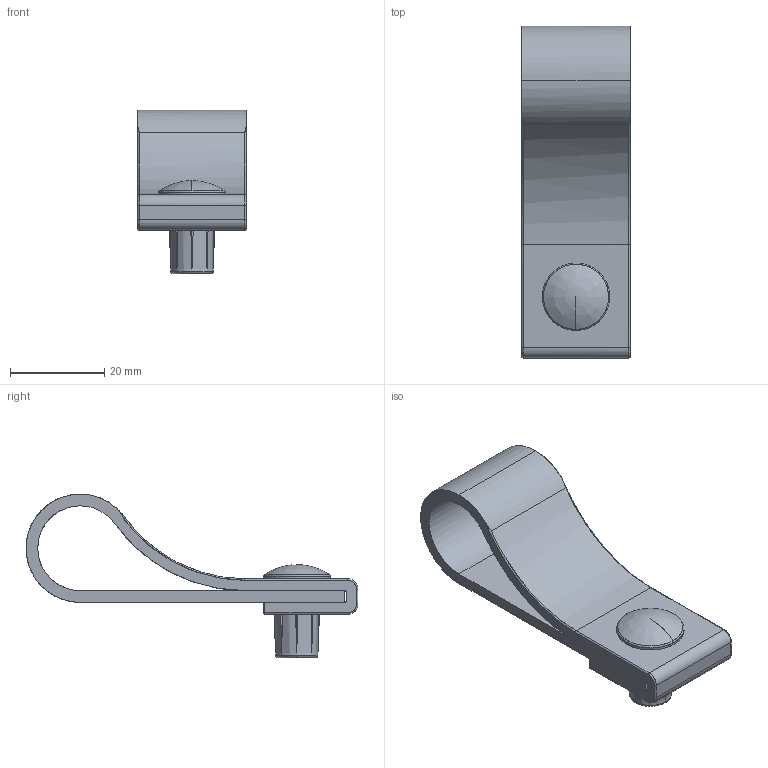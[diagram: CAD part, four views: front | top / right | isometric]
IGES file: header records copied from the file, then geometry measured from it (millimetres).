
Start section: C
Global section: file name: 8309.igs; native system: By Siemens PLM Incorporated; preprocessor: XPlus GENERIC/IGES 16.0.42; author: Author; organization: Title; date: 20210505.110021; units: millimetre
Bounding box: 23 x 70.5 x 34.79 mm (x, y, z)
Surface area: 9870.7 mm2 (no closed solid volume)
Topology: 0 solids, 0 shells, 71 faces, 385 edges, 382 vertices
Faces by surface type: bspline 71
